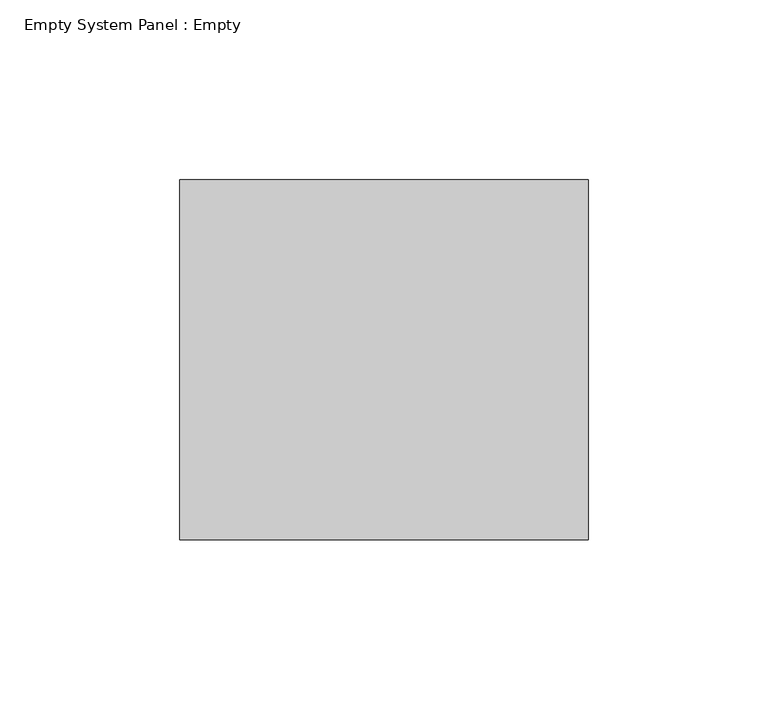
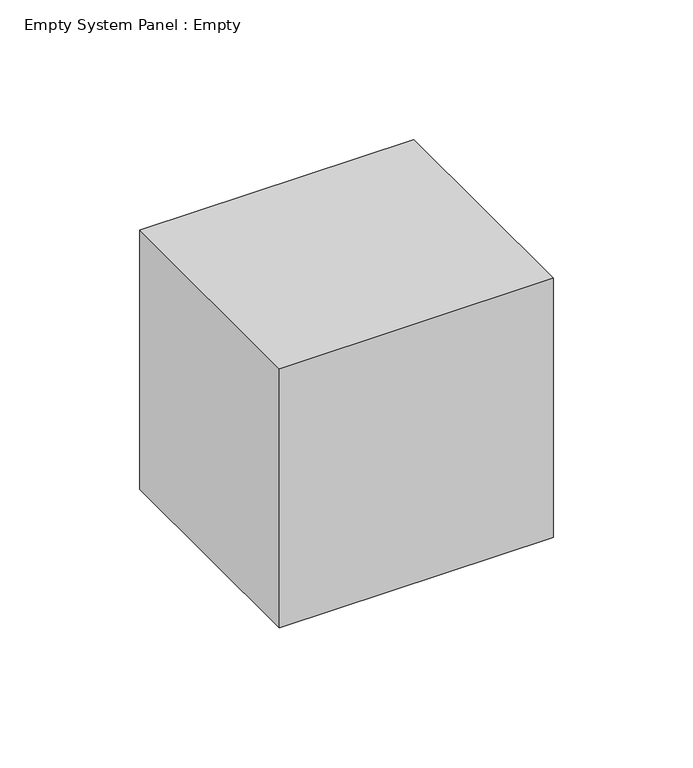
"""IFC4 building model written with IfcOpenShell, lengths in millimetres: plate geometry, Empty System Panel : Empty."""

from ifc_helpers import new_model, si_unit, origin, origin_with_axes, place, context, project, spatial, polyline, outline, extrude, source, transform, mapped, element, save


def empty_system_panel_empty_c8609655(model_context):
    return source(origin(), model_context, "Body", "SweptSolid", [
        extrude(outline(polyline([(56.6878051, 50.0), (-56.6878051, 50.0), (-56.6878051, 150.0), (56.6878051, 150.0), (56.6878051, 50.0)])), origin_with_axes(), (0.0, 0.0, 1.0), 113.37561),
    ])


if __name__ == "__main__":
    model = new_model("IFC4")
    model_context = context("Model", 3, world=origin())
    ifc_project = project(units=[si_unit("LENGTHUNIT", "METRE", prefix="MILLI")], contexts=[model_context])
    site = spatial("IfcSite", under=ifc_project)
    building = spatial("IfcBuilding", under=site)
    placement = place(None, origin())
    empty_system_panel_empty_shape = empty_system_panel_empty_c8609655(model_context)
    element("IfcPlate", 1, ObjectType="Empty System Panel : Empty", at=placement, inside=building, context=model_context, shape_type="MappedRepresentation", body=[
        mapped(empty_system_panel_empty_shape, transform((0.0, 0.0, 0.0), x_axis=(1.0, 0.0, 0.0), y_axis=(0.0, 1.0, 0.0), z_axis=(0.0, 0.0, 1.0))),
    ])
    save(model, "model.ifc")
